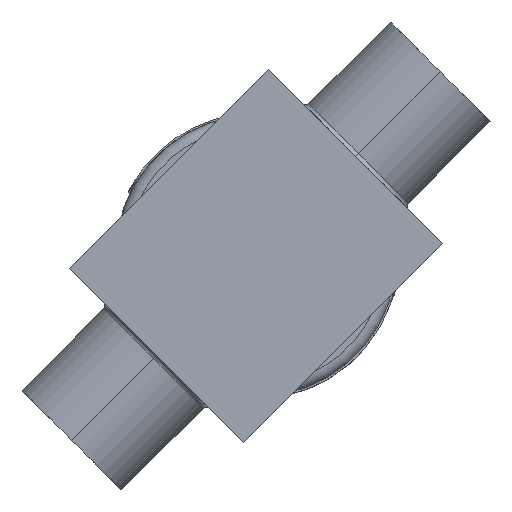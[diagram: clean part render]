
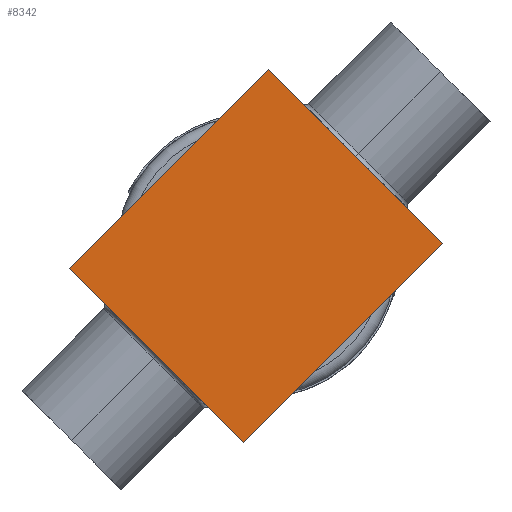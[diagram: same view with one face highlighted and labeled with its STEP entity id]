
A CAD part, front view. The second image highlights one B-rep face of the part: STEP entity #8342.
In plain terms, the highlighted planar face has unit normal (0, -1, 0) as drawn and (0, 0, -1) by its records, which use the part's own axes.
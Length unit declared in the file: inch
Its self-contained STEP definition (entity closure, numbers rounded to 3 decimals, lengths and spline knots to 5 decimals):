
#477 = VECTOR ( 'NONE', #7007, 39.37008 ) ;
#507 = VERTEX_POINT ( 'NONE', #5975 ) ;
#511 = LINE ( 'NONE', #3352, #5949 ) ;
#562 = CARTESIAN_POINT ( 'NONE',  ( 0.5, -0.4375, 0. ) ) ;
#1204 = DIRECTION ( 'NONE',  ( -1., 0., 0. ) ) ;
#1392 = ORIENTED_EDGE ( 'NONE', *, *, #8847, .F. ) ;
#1980 = VERTEX_POINT ( 'NONE', #7073 ) ;
#2036 = EDGE_CURVE ( 'NONE', #507, #1980, #511, .T. ) ;
#2565 = FACE_OUTER_BOUND ( 'NONE', #7339, .T. ) ;
#2776 = CARTESIAN_POINT ( 'NONE',  ( 0.5, -0.4375, 0. ) ) ;
#3352 = CARTESIAN_POINT ( 'NONE',  ( -0.5, 0.4375, 0. ) ) ;
#3355 = ORIENTED_EDGE ( 'NONE', *, *, #2036, .F. ) ;
#3472 = LINE ( 'NONE', #2776, #477 ) ;
#3757 = CARTESIAN_POINT ( 'NONE',  ( -0.5, 0.4375, 0. ) ) ;
#3927 = DIRECTION ( 'NONE',  ( 0., 0., -1. ) ) ;
#4181 = VERTEX_POINT ( 'NONE', #6661 ) ;
#4245 = LINE ( 'NONE', #562, #7770 ) ;
#4640 = CARTESIAN_POINT ( 'NONE',  ( -0.5, -0.4375, 0. ) ) ;
#5708 = DIRECTION ( 'NONE',  ( 1., 0., 0. ) ) ;
#5752 = LINE ( 'NONE', #3757, #5843 ) ;
#5756 = ORIENTED_EDGE ( 'NONE', *, *, #7710, .T. ) ;
#5843 = VECTOR ( 'NONE', #5708, 39.37008 ) ;
#5949 = VECTOR ( 'NONE', #7855, 39.37008 ) ;
#5975 = CARTESIAN_POINT ( 'NONE',  ( -0.5, 0.4375, 0. ) ) ;
#6008 = AXIS2_PLACEMENT_3D ( 'NONE', #4640, #3927, #8944 ) ;
#6341 = EDGE_CURVE ( 'NONE', #4181, #1980, #4245, .T. ) ;
#6661 = CARTESIAN_POINT ( 'NONE',  ( 0.5, -0.4375, 0. ) ) ;
#6925 = VERTEX_POINT ( 'NONE', #8006 ) ;
#7007 = DIRECTION ( 'NONE',  ( 0., 1., 0. ) ) ;
#7073 = CARTESIAN_POINT ( 'NONE',  ( -0.5, -0.4375, 0. ) ) ;
#7339 = EDGE_LOOP ( 'NONE', ( #3355, #5756, #1392, #7419 ) ) ;
#7419 = ORIENTED_EDGE ( 'NONE', *, *, #6341, .T. ) ;
#7710 = EDGE_CURVE ( 'NONE', #507, #6925, #5752, .T. ) ;
#7770 = VECTOR ( 'NONE', #1204, 39.37008 ) ;
#7855 = DIRECTION ( 'NONE',  ( 0., -1., 0. ) ) ;
#8006 = CARTESIAN_POINT ( 'NONE',  ( 0.5, 0.4375, 0. ) ) ;
#8242 = PLANE ( 'NONE',  #6008 ) ;
#8342 = ADVANCED_FACE ( 'NONE', ( #2565 ), #8242, .T. ) ;
#8847 = EDGE_CURVE ( 'NONE', #4181, #6925, #3472, .T. ) ;
#8944 = DIRECTION ( 'NONE',  ( -1., 0., 0. ) ) ;
